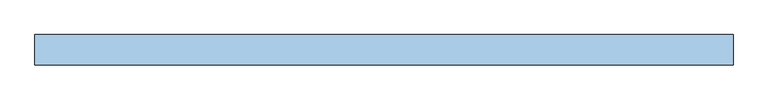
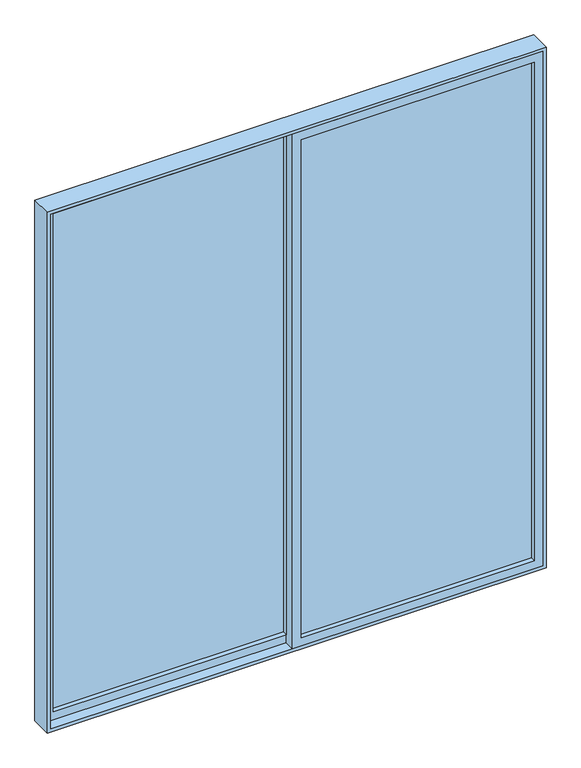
"""IFC4 building model written with IfcOpenShell, lengths in millimetres: window geometry, VENT_ALUM_CORR_2HOJAS_CORRE 1 : VD-2/ CORRE RECAM 2.31 X 2.55."""

from ifc_helpers import new_model, si_unit, frame, origin, place, context, project, spatial, polyline, outline, extrude, source, transform, mapped, element, save


def window_1ee32456(model_context):
    return source(origin(), model_context, "Body", "SweptSolid", [
        extrude(outline(polyline([(-20.0, 28.0), (-20.0, 22.0), (-1100.0, 22.0), (-1100.0, 28.0), (-20.0, 28.0)])), frame((0.0, 0.0, 855.0), z_axis=(0.0, 0.0, 1.0), x_axis=(1.0, 0.0, 0.0)), (0.0, 0.0, 1.0), 2440.0),
        extrude(outline(polyline([(3335.0, -1140.0), (815.0, -1140.0), (815.0, 20.0), (3335.0, 20.0), (3335.0, -1140.0)]), holes=[polyline([(855.0, -1100.0), (3295.0, -1100.0), (3295.0, -20.0), (855.0, -20.0), (855.0, -1100.0)])]), frame((0.0, 0.0, 0.0), z_axis=(0.0, 1.0, 0.0), x_axis=(0.0, 0.0, 1.0)), (0.0, 0.0, 1.0), 50.0),
        extrude(outline(polyline([(20.0, -28.0), (20.0, -22.0), (1100.0, -22.0), (1100.0, -28.0), (20.0, -28.0)])), frame((0.0, 0.0, 855.0), z_axis=(0.0, 0.0, 1.0), x_axis=(1.0, 0.0, 0.0)), (0.0, 0.0, 1.0), 2440.0),
        extrude(outline(polyline([(3335.0, -20.0), (815.0, -20.0), (815.0, 1140.0), (3335.0, 1140.0), (3335.0, -20.0)]), holes=[polyline([(855.0, 20.0), (3295.0, 20.0), (3295.0, 1100.0), (855.0, 1100.0), (855.0, 20.0)])]), frame((0.0, -50.0, 0.0), z_axis=(0.0, 1.0, 0.0), x_axis=(0.0, 0.0, 1.0)), (0.0, 0.0, 1.0), 50.0),
        extrude(outline(polyline([(3350.0, -1155.0), (800.0, -1155.0), (800.0, 1155.0), (3350.0, 1155.0), (3350.0, -1155.0)]), holes=[polyline([(815.0, -1140.0), (3335.0, -1140.0), (3335.0, 1140.0), (815.0, 1140.0), (815.0, -1140.0)])]), frame((0.0, -50.0, 0.0), z_axis=(0.0, 1.0, 0.0), x_axis=(0.0, 0.0, 1.0)), (0.0, 0.0, 1.0), 100.0),
    ])


if __name__ == "__main__":
    model = new_model("IFC4")
    model_context = context("Model", 3, world=origin())
    ifc_project = project(units=[si_unit("LENGTHUNIT", "METRE", prefix="MILLI")], contexts=[model_context])
    site = spatial("IfcSite", under=ifc_project)
    building = spatial("IfcBuilding", under=site)
    placement = place(None, origin())
    window_shape = window_1ee32456(model_context)
    element("IfcWindow", 1, ObjectType="VENT_ALUM_CORR_2HOJAS_CORRE 1 : VD-2/ CORRE RECAM 2.31 X 2.55", at=placement, inside=building, context=model_context, shape_type="MappedRepresentation", body=[
        mapped(window_shape, transform((0.0, 0.0, 0.0), x_axis=(1.0, 0.0, 0.0), y_axis=(0.0, 1.0, 0.0), z_axis=(0.0, 0.0, 1.0))),
    ])
    save(model, "model.ifc")
